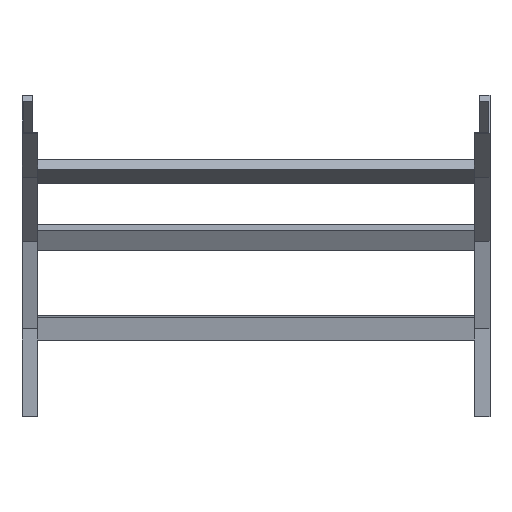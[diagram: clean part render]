
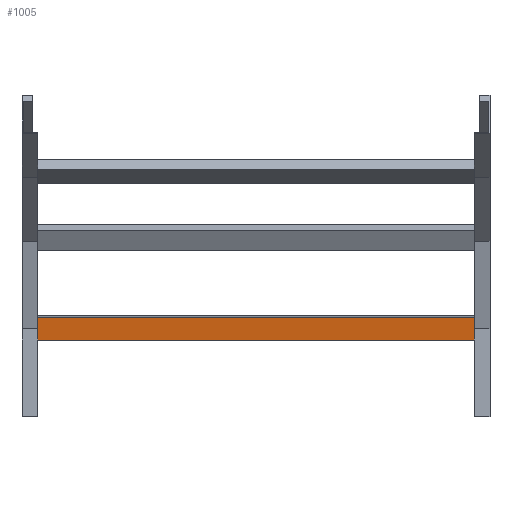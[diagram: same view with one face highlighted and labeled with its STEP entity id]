
A CAD part, front view. The second image highlights one B-rep face of the part: STEP entity #1005.
In plain terms, the highlighted planar face has unit normal (0, -0.991, -0.131) as drawn and (0, -1, 0) by its records, which use the part's own axes.
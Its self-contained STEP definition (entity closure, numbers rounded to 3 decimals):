
#26 = ORIENTED_EDGE ( 'NONE', *, *, #1545, .T. ) ;
#69 = LINE ( 'NONE', #1093, #606 ) ;
#70 = VECTOR ( 'NONE', #356, 1000. ) ;
#100 = ORIENTED_EDGE ( 'NONE', *, *, #526, .F. ) ;
#143 = CARTESIAN_POINT ( 'NONE',  ( 398., 0., 20.25 ) ) ;
#205 = LINE ( 'NONE', #717, #735 ) ;
#223 = VERTEX_POINT ( 'NONE', #1515 ) ;
#286 = PLANE ( 'NONE',  #1046 ) ;
#324 = VERTEX_POINT ( 'NONE', #1689 ) ;
#356 = DIRECTION ( 'NONE',  ( -1., 0., 0. ) ) ;
#462 = DIRECTION ( 'NONE',  ( 0., 0., -1. ) ) ;
#493 = CARTESIAN_POINT ( 'NONE',  ( 398., 0., -20.25 ) ) ;
#526 = EDGE_CURVE ( 'NONE', #223, #1331, #1643, .T. ) ;
#606 = VECTOR ( 'NONE', #1625, 1000. ) ;
#650 = DIRECTION ( 'NONE',  ( 0., 1., 0. ) ) ;
#717 = CARTESIAN_POINT ( 'NONE',  ( 398., 0., 20.25 ) ) ;
#735 = VECTOR ( 'NONE', #1104, 1000. ) ;
#766 = FACE_OUTER_BOUND ( 'NONE', #1532, .T. ) ;
#1005 = ADVANCED_FACE ( 'NONE', ( #766 ), #286, .F. ) ;
#1046 = AXIS2_PLACEMENT_3D ( 'NONE', #143, #650, #1564 ) ;
#1093 = CARTESIAN_POINT ( 'NONE',  ( -398., 0., 20.25 ) ) ;
#1104 = DIRECTION ( 'NONE',  ( -1., 0., 0. ) ) ;
#1107 = LINE ( 'NONE', #1637, #1610 ) ;
#1123 = ORIENTED_EDGE ( 'NONE', *, *, #1224, .F. ) ;
#1224 = EDGE_CURVE ( 'NONE', #1538, #223, #1107, .T. ) ;
#1274 = CARTESIAN_POINT ( 'NONE',  ( -398., 0., -20.25 ) ) ;
#1331 = VERTEX_POINT ( 'NONE', #1274 ) ;
#1354 = CARTESIAN_POINT ( 'NONE',  ( 398., 0., 20.25 ) ) ;
#1460 = ORIENTED_EDGE ( 'NONE', *, *, #1618, .T. ) ;
#1515 = CARTESIAN_POINT ( 'NONE',  ( 398., 0., -20.25 ) ) ;
#1532 = EDGE_LOOP ( 'NONE', ( #1460, #100, #1123, #26 ) ) ;
#1538 = VERTEX_POINT ( 'NONE', #1354 ) ;
#1545 = EDGE_CURVE ( 'NONE', #1538, #324, #205, .T. ) ;
#1564 = DIRECTION ( 'NONE',  ( 0., 0., 1. ) ) ;
#1610 = VECTOR ( 'NONE', #462, 1000. ) ;
#1618 = EDGE_CURVE ( 'NONE', #324, #1331, #69, .T. ) ;
#1625 = DIRECTION ( 'NONE',  ( 0., 0., -1. ) ) ;
#1637 = CARTESIAN_POINT ( 'NONE',  ( 398., 0., 20.25 ) ) ;
#1643 = LINE ( 'NONE', #493, #70 ) ;
#1689 = CARTESIAN_POINT ( 'NONE',  ( -398., 0., 20.25 ) ) ;
